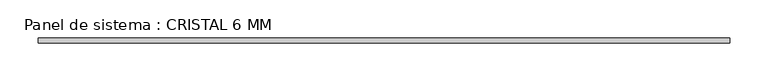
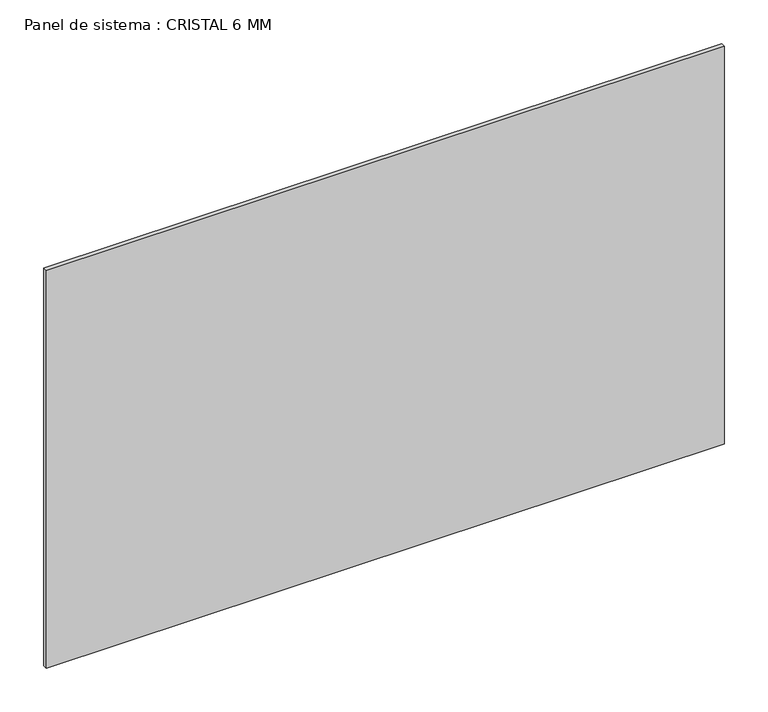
"""IFC4 building model written with IfcOpenShell, lengths in millimetres: plate geometry, Panel de sistema : CRISTAL 6 MM."""

from ifc_helpers import new_model, si_unit, origin, origin_with_axes, place, context, project, spatial, polyline, outline, extrude, source, transform, mapped, element, save


def panel_de_sistema_cristal_6_mm_a6e31bd9(model_context):
    return source(origin(), model_context, "Body", "SweptSolid", [
        extrude(outline(polyline([(450.0, -3.0), (-450.0, -3.0), (-450.0, 3.0), (450.0, 3.0), (450.0, -3.0)])), origin_with_axes(), (0.0, 0.0, 1.0), 558.3333333),
    ])


if __name__ == "__main__":
    model = new_model("IFC4")
    model_context = context("Model", 3, world=origin())
    ifc_project = project(units=[si_unit("LENGTHUNIT", "METRE", prefix="MILLI")], contexts=[model_context])
    site = spatial("IfcSite", under=ifc_project)
    building = spatial("IfcBuilding", under=site)
    placement = place(None, origin())
    panel_de_sistema_cristal_6_mm_shape = panel_de_sistema_cristal_6_mm_a6e31bd9(model_context)
    element("IfcPlate", 1, ObjectType="Panel de sistema : CRISTAL 6 MM", at=placement, inside=building, context=model_context, shape_type="MappedRepresentation", body=[
        mapped(panel_de_sistema_cristal_6_mm_shape, transform((0.0, 0.0, 0.0), x_axis=(1.0, 0.0, 0.0), y_axis=(0.0, 1.0, 0.0), z_axis=(0.0, 0.0, 1.0))),
    ])
    save(model, "model.ifc")
